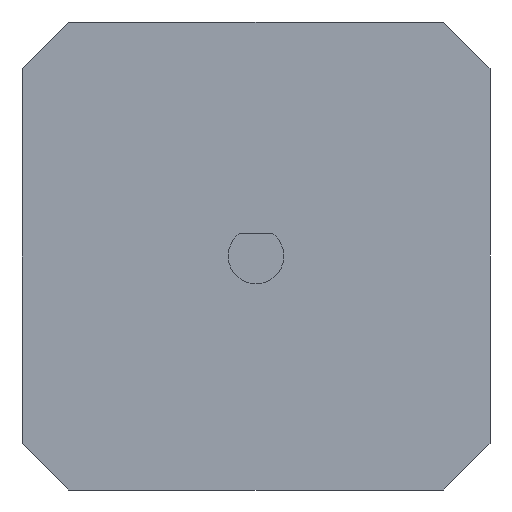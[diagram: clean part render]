
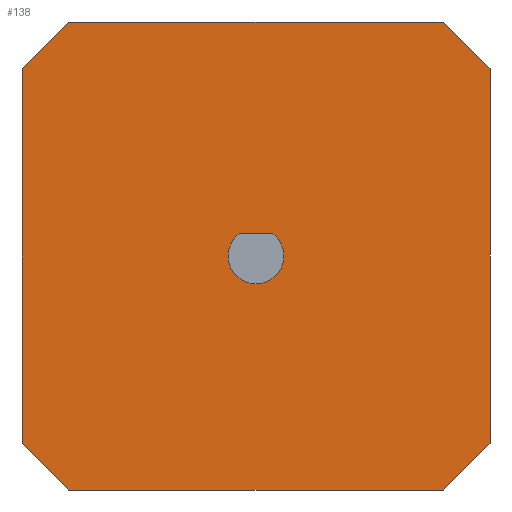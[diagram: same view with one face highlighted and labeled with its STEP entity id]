
A CAD part, front view. The second image highlights one B-rep face of the part: STEP entity #138.
In plain terms, the highlighted planar face has unit normal (0, -1, 0).
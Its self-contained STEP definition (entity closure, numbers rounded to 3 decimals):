
#24 = FACE_OUTER_BOUND ( 'NONE', #814, .T. ) ;
#42 = DIRECTION ( 'NONE',  ( 0., 0., -1. ) ) ;
#52 = LINE ( 'NONE', #712, #393 ) ;
#70 = CARTESIAN_POINT ( 'NONE',  ( 42., -50., -4.2 ) ) ;
#71 = AXIS2_PLACEMENT_3D ( 'NONE', #1155, #834, #42 ) ;
#114 = EDGE_CURVE ( 'NONE', #325, #320, #1001, .T. ) ;
#138 = ADVANCED_FACE ( 'NONE', ( #24, #335 ), #1055, .T. ) ;
#145 = DIRECTION ( 'NONE',  ( -1., 0., 0. ) ) ;
#152 = VERTEX_POINT ( 'NONE', #951 ) ;
#166 = EDGE_CURVE ( 'NONE', #1021, #399, #1218, .T. ) ;
#171 = DIRECTION ( 'NONE',  ( 0., 0., 1. ) ) ;
#172 = LINE ( 'NONE', #264, #1198 ) ;
#177 = ORIENTED_EDGE ( 'NONE', *, *, #972, .F. ) ;
#208 = CIRCLE ( 'NONE', #1079, 2.5 ) ;
#217 = CARTESIAN_POINT ( 'NONE',  ( 0., -50., -4.2 ) ) ;
#259 = DIRECTION ( 'NONE',  ( 0., 0., -1. ) ) ;
#264 = CARTESIAN_POINT ( 'NONE',  ( 0., -50., -42. ) ) ;
#297 = EDGE_CURVE ( 'NONE', #701, #1003, #1028, .T. ) ;
#314 = CARTESIAN_POINT ( 'NONE',  ( 37.8, -50., -42. ) ) ;
#320 = VERTEX_POINT ( 'NONE', #867 ) ;
#323 = EDGE_CURVE ( 'NONE', #1291, #1304, #805, .T. ) ;
#325 = VERTEX_POINT ( 'NONE', #70 ) ;
#335 = FACE_BOUND ( 'NONE', #1327, .T. ) ;
#347 = VECTOR ( 'NONE', #1111, 1000. ) ;
#351 = EDGE_CURVE ( 'NONE', #1291, #1304, #208, .T. ) ;
#393 = VECTOR ( 'NONE', #259, 1000. ) ;
#399 = VERTEX_POINT ( 'NONE', #217 ) ;
#406 = CARTESIAN_POINT ( 'NONE',  ( 42., -50., -37.8 ) ) ;
#472 = CARTESIAN_POINT ( 'NONE',  ( 37.8, -50., 0. ) ) ;
#491 = VECTOR ( 'NONE', #1091, 1000. ) ;
#493 = VECTOR ( 'NONE', #859, 1000. ) ;
#515 = ORIENTED_EDGE ( 'NONE', *, *, #166, .F. ) ;
#544 = VECTOR ( 'NONE', #1203, 1000. ) ;
#560 = EDGE_CURVE ( 'NONE', #701, #152, #172, .T. ) ;
#589 = ORIENTED_EDGE ( 'NONE', *, *, #323, .T. ) ;
#624 = CARTESIAN_POINT ( 'NONE',  ( 22.5, -50., -19. ) ) ;
#631 = LINE ( 'NONE', #971, #935 ) ;
#644 = DIRECTION ( 'NONE',  ( 0., -1., 0. ) ) ;
#680 = CARTESIAN_POINT ( 'NONE',  ( 0., -50., -37.8 ) ) ;
#701 = VERTEX_POINT ( 'NONE', #847 ) ;
#706 = ORIENTED_EDGE ( 'NONE', *, *, #351, .F. ) ;
#712 = CARTESIAN_POINT ( 'NONE',  ( 42., -50., 0. ) ) ;
#768 = CARTESIAN_POINT ( 'NONE',  ( 0., -50., -4.2 ) ) ;
#805 = LINE ( 'NONE', #1193, #493 ) ;
#814 = EDGE_LOOP ( 'NONE', ( #1416, #827, #1415, #177, #1436, #515, #1005, #1292 ) ) ;
#827 = ORIENTED_EDGE ( 'NONE', *, *, #1214, .F. ) ;
#833 = LINE ( 'NONE', #768, #544 ) ;
#834 = DIRECTION ( 'NONE',  ( 0., -1., 0. ) ) ;
#839 = VECTOR ( 'NONE', #1046, 1000. ) ;
#841 = CARTESIAN_POINT ( 'NONE',  ( 0., -50., 0. ) ) ;
#847 = CARTESIAN_POINT ( 'NONE',  ( 37.8, -50., -42. ) ) ;
#859 = DIRECTION ( 'NONE',  ( 1., 0., 0. ) ) ;
#867 = CARTESIAN_POINT ( 'NONE',  ( 37.8, -50., 0. ) ) ;
#881 = VERTEX_POINT ( 'NONE', #1229 ) ;
#935 = VECTOR ( 'NONE', #1301, 1000. ) ;
#951 = CARTESIAN_POINT ( 'NONE',  ( 4.2, -50., -42. ) ) ;
#971 = CARTESIAN_POINT ( 'NONE',  ( 0., -50., 0. ) ) ;
#972 = EDGE_CURVE ( 'NONE', #881, #320, #631, .T. ) ;
#1001 = LINE ( 'NONE', #472, #839 ) ;
#1003 = VERTEX_POINT ( 'NONE', #406 ) ;
#1005 = ORIENTED_EDGE ( 'NONE', *, *, #1024, .T. ) ;
#1021 = VERTEX_POINT ( 'NONE', #680 ) ;
#1024 = EDGE_CURVE ( 'NONE', #1021, #152, #1442, .T. ) ;
#1028 = LINE ( 'NONE', #314, #491 ) ;
#1046 = DIRECTION ( 'NONE',  ( -0.707, 0., 0.707 ) ) ;
#1055 = PLANE ( 'NONE',  #71 ) ;
#1079 = AXIS2_PLACEMENT_3D ( 'NONE', #1426, #644, #1313 ) ;
#1091 = DIRECTION ( 'NONE',  ( 0.707, 0., 0.707 ) ) ;
#1111 = DIRECTION ( 'NONE',  ( 0.707, 0., -0.707 ) ) ;
#1155 = CARTESIAN_POINT ( 'NONE',  ( 0., -50., 0. ) ) ;
#1182 = CARTESIAN_POINT ( 'NONE',  ( 19.5, -50., -19. ) ) ;
#1193 = CARTESIAN_POINT ( 'NONE',  ( 19.5, -50., -19. ) ) ;
#1198 = VECTOR ( 'NONE', #145, 1000. ) ;
#1203 = DIRECTION ( 'NONE',  ( -0.707, 0., -0.707 ) ) ;
#1214 = EDGE_CURVE ( 'NONE', #325, #1003, #52, .T. ) ;
#1218 = LINE ( 'NONE', #841, #1449 ) ;
#1229 = CARTESIAN_POINT ( 'NONE',  ( 4.2, -50., 0. ) ) ;
#1291 = VERTEX_POINT ( 'NONE', #1182 ) ;
#1292 = ORIENTED_EDGE ( 'NONE', *, *, #560, .F. ) ;
#1301 = DIRECTION ( 'NONE',  ( 1., 0., 0. ) ) ;
#1304 = VERTEX_POINT ( 'NONE', #624 ) ;
#1313 = DIRECTION ( 'NONE',  ( 0., 0., -1. ) ) ;
#1327 = EDGE_LOOP ( 'NONE', ( #706, #589 ) ) ;
#1356 = CARTESIAN_POINT ( 'NONE',  ( 4.2, -50., -42. ) ) ;
#1382 = EDGE_CURVE ( 'NONE', #881, #399, #833, .T. ) ;
#1415 = ORIENTED_EDGE ( 'NONE', *, *, #114, .T. ) ;
#1416 = ORIENTED_EDGE ( 'NONE', *, *, #297, .T. ) ;
#1426 = CARTESIAN_POINT ( 'NONE',  ( 21., -50., -21. ) ) ;
#1436 = ORIENTED_EDGE ( 'NONE', *, *, #1382, .T. ) ;
#1442 = LINE ( 'NONE', #1356, #347 ) ;
#1449 = VECTOR ( 'NONE', #171, 1000. ) ;
